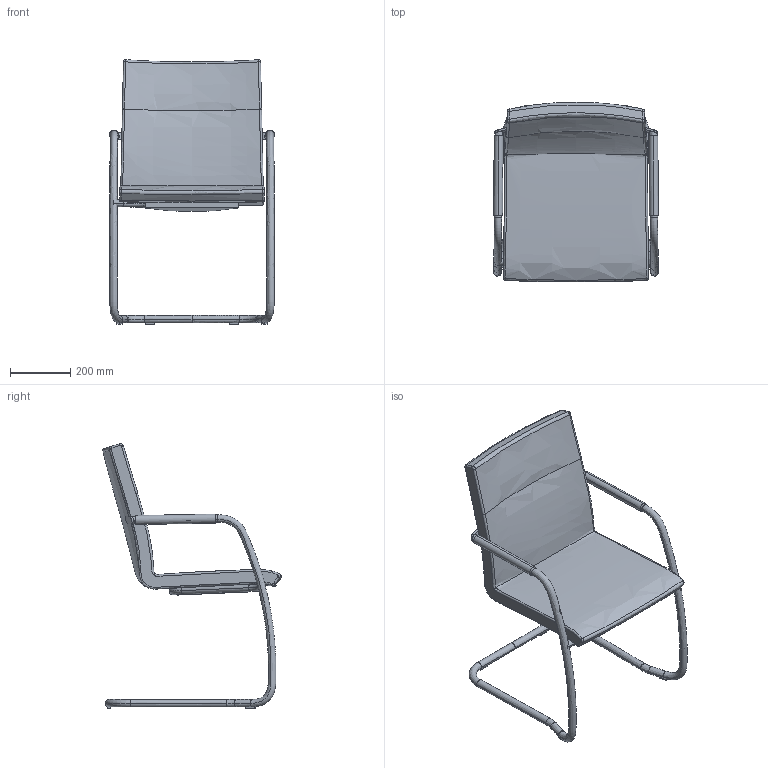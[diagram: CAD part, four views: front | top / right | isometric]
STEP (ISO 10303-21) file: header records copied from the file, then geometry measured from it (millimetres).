
FILE_DESCRIPTION(/* description */ (''),/* implementation_level */ '2;1');
FILE_NAME(/* name */ 'SEANCE~2',/* time_stamp */ '2017-01-03T13:21:06+01:00',/* author */ (''),/* organization */ (''),/* preprocessor_version */ 'ST-DEVELOPER v15',/* originating_system */ '',/* authorisation */ '');
FILE_SCHEMA (('CONFIG_CONTROL_DESIGN'));
Length unit declared in the file: millimetre
Products named in the file (1): Document
Bounding box: 546.79 x 594.19 x 877.31 mm (x, y, z)
Volume: 23156694.6 mm3; surface area: 1454874.7 mm2
Topology: 8 solids, 11 shells, 122 faces, 259 edges, 158 vertices
Faces by surface type: bspline 88, plane 34
Entity records: 10334 total; most frequent: CARTESIAN_POINT 8656, ORIENTED_EDGE 504, EDGE_CURVE 256, VERTEX_POINT 152, B_SPLINE_CURVE_WITH_KNOTS 143, ADVANCED_FACE 122, FACE_OUTER_BOUND 122, EDGE_LOOP 122
